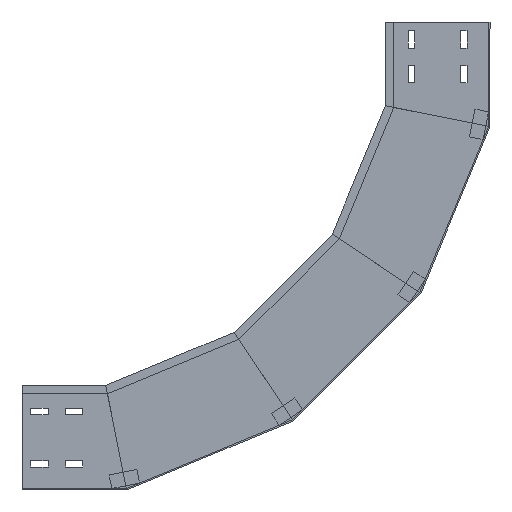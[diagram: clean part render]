
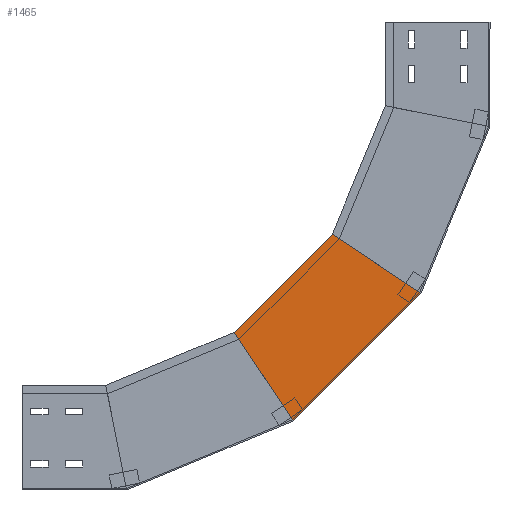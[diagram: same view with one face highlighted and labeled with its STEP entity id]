
A CAD part, left-side view. The second image highlights one B-rep face of the part: STEP entity #1465.
In plain terms, the highlighted planar face has unit normal (-1, 0, 0) as drawn and (1, 0, 0) by its records, which use the part's own axes.
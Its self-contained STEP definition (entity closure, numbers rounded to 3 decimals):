
#197 = VERTEX_POINT ( 'NONE', #278 ) ;
#266 = DIRECTION ( 'NONE',  ( -1., 0., 0. ) ) ;
#278 = CARTESIAN_POINT ( 'NONE',  ( 0., 367.224, -445.262 ) ) ;
#291 = VERTEX_POINT ( 'NONE', #937 ) ;
#303 = VECTOR ( 'NONE', #839, 1000. ) ;
#352 = EDGE_CURVE ( 'NONE', #440, #471, #1879, .T. ) ;
#418 = ORIENTED_EDGE ( 'NONE', *, *, #2170, .F. ) ;
#440 = VERTEX_POINT ( 'NONE', #2088 ) ;
#459 = PLANE ( 'NONE',  #1372 ) ;
#471 = VERTEX_POINT ( 'NONE', #1914 ) ;
#594 = VECTOR ( 'NONE', #1892, 1000. ) ;
#609 = CARTESIAN_POINT ( 'NONE',  ( 0., 205.181, -283.219 ) ) ;
#679 = DIRECTION ( 'NONE',  ( 0., 0., 1. ) ) ;
#695 = VECTOR ( 'NONE', #984, 1000. ) ;
#814 = CARTESIAN_POINT ( 'NONE',  ( 0., 99.115, -389.285 ) ) ;
#839 = DIRECTION ( 'NONE',  ( 0., 0.707, -0.707 ) ) ;
#885 = CARTESIAN_POINT ( 'NONE',  ( 0., 141.128, -361.213 ) ) ;
#903 = DIRECTION ( 'NONE',  ( 0., -0.831, -0.556 ) ) ;
#937 = CARTESIAN_POINT ( 'NONE',  ( 0., 282.256, -572.425 ) ) ;
#971 = EDGE_CURVE ( 'NONE', #440, #197, #1521, .T. ) ;
#984 = DIRECTION ( 'NONE',  ( 0., 0.707, -0.707 ) ) ;
#1225 = FACE_OUTER_BOUND ( 'NONE', #1351, .T. ) ;
#1351 = EDGE_LOOP ( 'NONE', ( #1731, #2045, #1533, #418 ) ) ;
#1372 = AXIS2_PLACEMENT_3D ( 'NONE', #1427, #266, #679 ) ;
#1427 = CARTESIAN_POINT ( 'NONE',  ( 0., 99.115, -389.285 ) ) ;
#1465 = ADVANCED_FACE ( 'NONE', ( #1225 ), #459, .F. ) ;
#1521 = LINE ( 'NONE', #609, #695 ) ;
#1533 = ORIENTED_EDGE ( 'NONE', *, *, #1909, .T. ) ;
#1578 = LINE ( 'NONE', #2271, #594 ) ;
#1583 = LINE ( 'NONE', #814, #303 ) ;
#1731 = ORIENTED_EDGE ( 'NONE', *, *, #971, .F. ) ;
#1807 = VECTOR ( 'NONE', #903, 1000. ) ;
#1879 = LINE ( 'NONE', #885, #1807 ) ;
#1892 = DIRECTION ( 'NONE',  ( 0., -0.556, -0.831 ) ) ;
#1909 = EDGE_CURVE ( 'NONE', #471, #291, #1583, .T. ) ;
#1914 = CARTESIAN_POINT ( 'NONE',  ( 0., 99.115, -389.285 ) ) ;
#2045 = ORIENTED_EDGE ( 'NONE', *, *, #352, .T. ) ;
#2088 = CARTESIAN_POINT ( 'NONE',  ( 0., 226.279, -304.317 ) ) ;
#2170 = EDGE_CURVE ( 'NONE', #197, #291, #1578, .T. ) ;
#2271 = CARTESIAN_POINT ( 'NONE',  ( 0., 310.328, -530.413 ) ) ;
